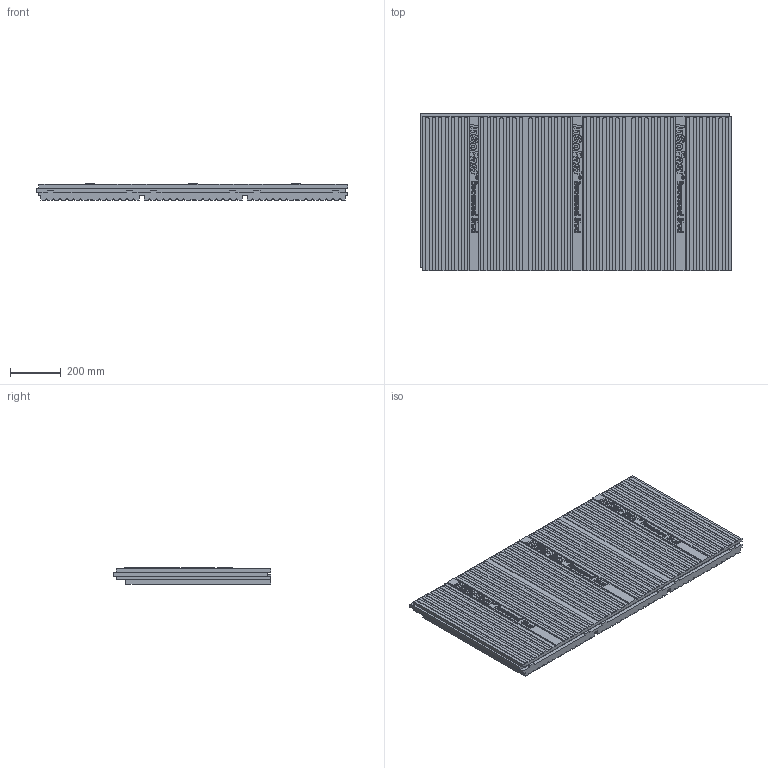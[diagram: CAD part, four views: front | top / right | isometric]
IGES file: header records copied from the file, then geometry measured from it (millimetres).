
Start section: SolidWorks IGES file using analytic representation for surfaces
Global section: file name: E:\Local CAD Details\CloudStation\Andys Working Files\Panels\Website files\EXI\EXI Website.IGS; native system: SolidWorks 2020; preprocessor: SolidWorks 2020; author: Andy; date: 200616.155858; units: inch
Bounding box: 1228.72 x 622.3 x 64.52 mm (x, y, z)
Surface area: 2208925.5 mm2 (no closed solid volume)
Topology: 0 solids, 0 shells, 1320 faces, 22771 edges, 22771 vertices
Faces by surface type: bspline 1230, revolution 90
